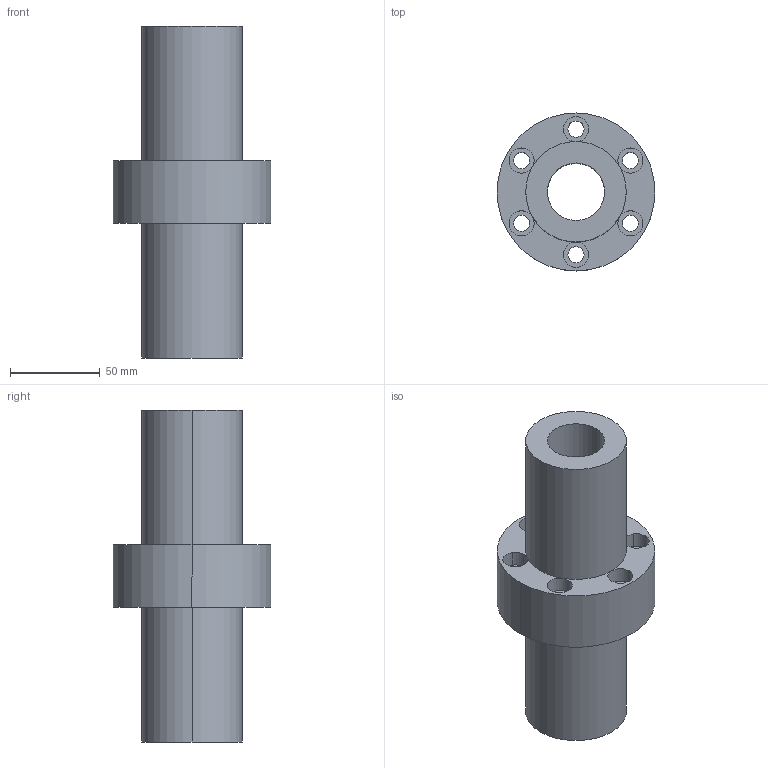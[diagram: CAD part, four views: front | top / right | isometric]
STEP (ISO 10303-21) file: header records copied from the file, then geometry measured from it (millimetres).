
FILE_DESCRIPTION((''),'2;1');
FILE_NAME('32-10T4','2008-04-07T',('yanyu'),(''),'PRO/ENGINEER BY PARAMETRIC TECHNOLOGY CORPORATION, 2005070','PRO/ENGINEER BY PARAMETRIC TECHNOLOGY CORPORATION, 2005070','');
FILE_SCHEMA(('CONFIG_CONTROL_DESIGN'));
Length unit declared in the file: millimetre
Products named in the file (1): 32-10T4
Bounding box: 88 x 88 x 185 mm (x, y, z)
Volume: 415573.8 mm3; surface area: 71194.8 mm2
Topology: 1 solids, 1 shells, 42 faces, 116 edges, 78 vertices
Faces by surface type: cylinder 32, plane 10
Entity records: 1466 total; most frequent: DIRECTION 284, CARTESIAN_POINT 236, ORIENTED_EDGE 232, AXIS2_PLACEMENT_3D 126, EDGE_CURVE 116, CIRCLE 84, VERTEX_POINT 78, EDGE_LOOP 58
